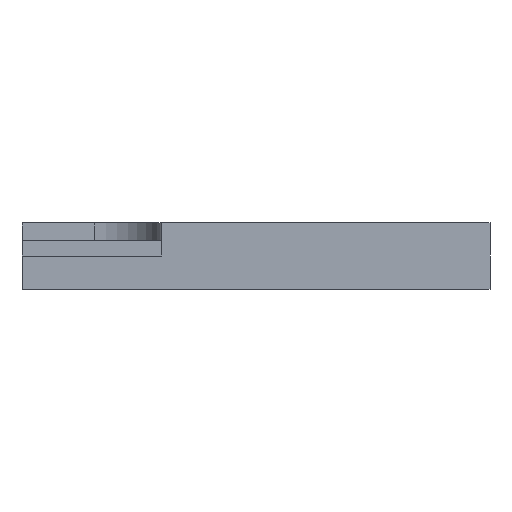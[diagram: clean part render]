
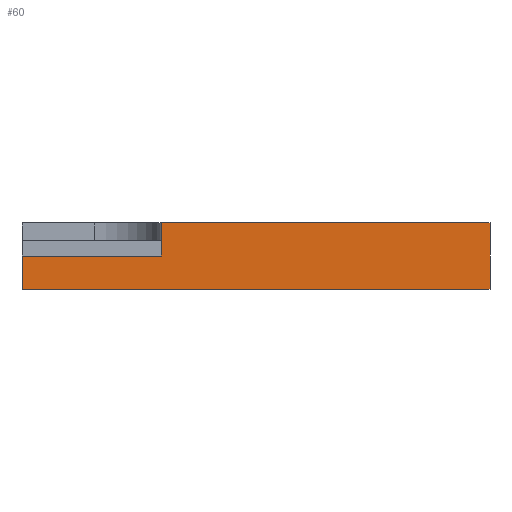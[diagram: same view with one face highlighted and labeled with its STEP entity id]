
A CAD part, front view. The second image highlights one B-rep face of the part: STEP entity #60.
In plain terms, the highlighted planar face has unit normal (0, -1, 0).
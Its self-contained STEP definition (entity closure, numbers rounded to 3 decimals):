
#60=ADVANCED_FACE('',(#1878),#1880,.T.);
#1878=FACE_BOUND('',#1879,.T.);
#1879=EDGE_LOOP('',(#30594,#30595,#30596,#30597,#30598,#30599));
#1880=PLANE('',#1881);
#1881=AXIS2_PLACEMENT_3D('',#1882,#1883,#1884);
#1882=CARTESIAN_POINT('',(-98.,-326.5,-66.));
#1883=DIRECTION('',(0.,-1.,0.));
#1884=DIRECTION('',(1.,0.,0.));
#30594=ORIENTED_EDGE('',*,*,#31006,.T.);
#30595=ORIENTED_EDGE('',*,*,#31007,.F.);
#30596=ORIENTED_EDGE('',*,*,#31008,.T.);
#30597=ORIENTED_EDGE('',*,*,#31009,.T.);
#30598=ORIENTED_EDGE('',*,*,#30952,.F.);
#30599=ORIENTED_EDGE('',*,*,#31005,.T.);
#30952=EDGE_CURVE('',#31161,#31163,#31164,.T.);
#31005=EDGE_CURVE('',#31161,#31265,#31267,.F.);
#31006=EDGE_CURVE('',#31265,#31268,#31269,.F.);
#31007=EDGE_CURVE('',#31270,#31268,#31271,.T.);
#31008=EDGE_CURVE('',#31270,#31272,#31273,.T.);
#31009=EDGE_CURVE('',#31272,#31163,#31274,.T.);
#31161=VERTEX_POINT('',#31548);
#31163=VERTEX_POINT('',#31552);
#31164=LINE('',#31553,#31554);
#31265=VERTEX_POINT('',#31797);
#31267=LINE('',#31801,#31802);
#31268=VERTEX_POINT('',#31804);
#31269=LINE('',#31805,#31806);
#31270=VERTEX_POINT('',#31808);
#31271=LINE('',#31809,#31810);
#31272=VERTEX_POINT('',#31812);
#31273=LINE('',#31813,#31814);
#31274=LINE('',#31816,#31817);
#31548=CARTESIAN_POINT('',(-35.,-326.5,-36.));
#31552=CARTESIAN_POINT('',(114.,-326.5,-36.));
#31553=CARTESIAN_POINT('',(-35.,-326.5,-36.));
#31554=VECTOR('',#31555,1.);
#31555=DIRECTION('',(1.,0.,0.));
#31797=CARTESIAN_POINT('',(-35.,-326.5,-51.));
#31801=CARTESIAN_POINT('',(-35.,-326.5,-51.));
#31802=VECTOR('',#31803,1.);
#31803=DIRECTION('',(0.,0.,1.));
#31804=CARTESIAN_POINT('',(-98.,-326.5,-51.));
#31805=CARTESIAN_POINT('',(-98.,-326.5,-51.));
#31806=VECTOR('',#31807,1.);
#31807=DIRECTION('',(1.,0.,0.));
#31808=CARTESIAN_POINT('',(-98.,-326.5,-66.));
#31809=CARTESIAN_POINT('',(-98.,-326.5,-66.));
#31810=VECTOR('',#31811,1.);
#31811=DIRECTION('',(0.,0.,1.));
#31812=CARTESIAN_POINT('',(114.,-326.5,-66.));
#31813=CARTESIAN_POINT('',(-98.,-326.5,-66.));
#31814=VECTOR('',#31815,1.);
#31815=DIRECTION('',(1.,0.,0.));
#31816=CARTESIAN_POINT('',(114.,-326.5,-66.));
#31817=VECTOR('',#31818,1.);
#31818=DIRECTION('',(0.,0.,1.));
